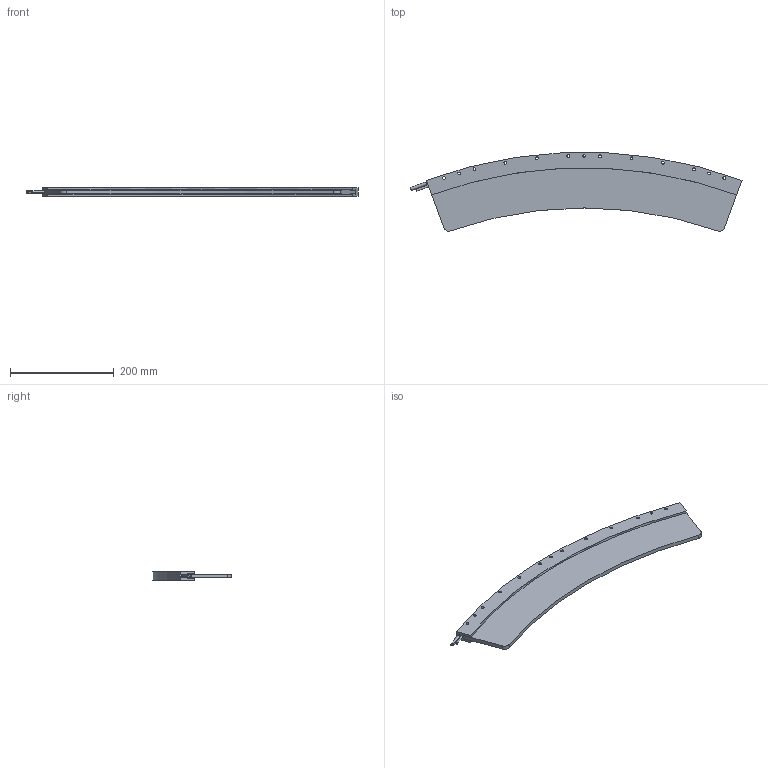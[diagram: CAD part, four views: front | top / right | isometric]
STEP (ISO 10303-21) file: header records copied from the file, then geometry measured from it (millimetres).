
FILE_DESCRIPTION (( 'STEP AP214' ), '1' );
FILE_NAME ('ARC750-C5 (CUSTOMER).step', '2021-07-23T07:50:42', ( '' ), ( '' ), 'SwSTEP 2.0', 'SolidWorks 2020', '' );
FILE_SCHEMA (( 'AUTOMOTIVE_DESIGN' ));
Length unit declared in the file: millimetre
Products named in the file (1): ARC750-C5 (CUSTOMER)
Bounding box: 640.58 x 151.24 x 17 mm (x, y, z)
Volume: 634929.8 mm3; surface area: 198076.8 mm2
Topology: 4 solids, 4 shells, 69 faces, 174 edges, 116 vertices
Faces by surface type: cylinder 45, plane 21, torus 2, bspline 1
Entity records: 3329 total; most frequent: CARTESIAN_POINT 729, DIRECTION 394, ORIENTED_EDGE 348, EDGE_CURVE 174, AXIS2_PLACEMENT_3D 163, VERTEX_POINT 116, EDGE_LOOP 98, CIRCLE 94
